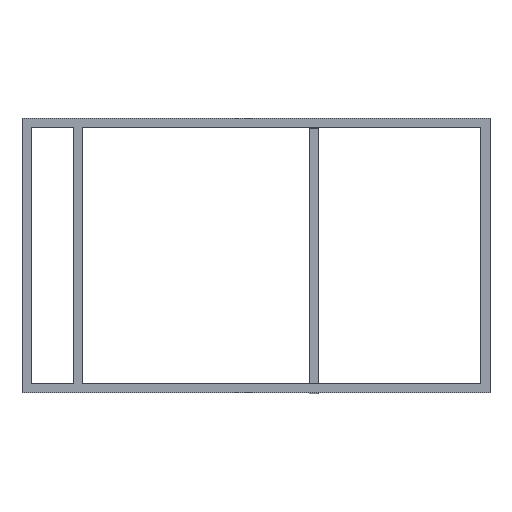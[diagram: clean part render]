
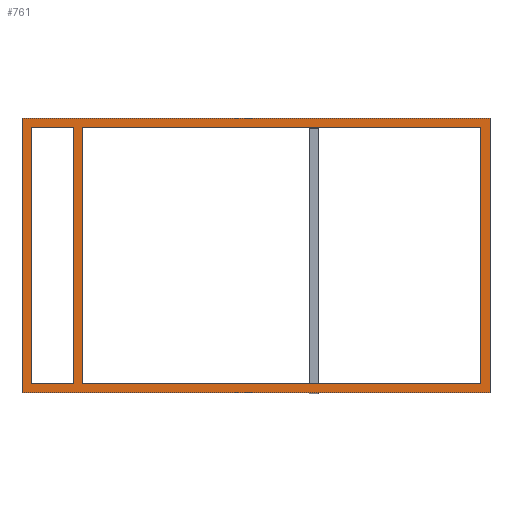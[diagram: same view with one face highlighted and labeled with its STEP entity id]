
A CAD part, top view. The second image highlights one B-rep face of the part: STEP entity #761.
In plain terms, the highlighted planar face has unit normal (0, 0, 1).
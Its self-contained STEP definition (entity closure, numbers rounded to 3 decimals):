
#682=AXIS2_PLACEMENT_3D('Plane Axis2P3D',#679,#680,#681) ;
#342=CARTESIAN_POINT('Vertex',(-385.,226.,0.)) ;
#345=CARTESIAN_POINT('Line Origine',(0.,226.,0.)) ;
#349=CARTESIAN_POINT('Vertex',(385.,226.,0.)) ;
#444=CARTESIAN_POINT('Vertex',(370.,211.,0.)) ;
#447=CARTESIAN_POINT('Line Origine',(42.5,211.,0.)) ;
#451=CARTESIAN_POINT('Vertex',(-285.,211.,0.)) ;
#664=CARTESIAN_POINT('Vertex',(-385.,-226.,0.)) ;
#667=CARTESIAN_POINT('Line Origine',(-385.,0.,0.)) ;
#679=CARTESIAN_POINT('Axis2P3D Location',(0.,0.,0.)) ;
#684=CARTESIAN_POINT('Line Origine',(385.,0.,0.)) ;
#688=CARTESIAN_POINT('Vertex',(385.,-226.,0.)) ;
#691=CARTESIAN_POINT('Line Origine',(0.,-226.,0.)) ;
#702=CARTESIAN_POINT('Line Origine',(-335.,211.,0.)) ;
#706=CARTESIAN_POINT('Vertex',(-300.,211.,0.)) ;
#708=CARTESIAN_POINT('Vertex',(-370.,211.,0.)) ;
#711=CARTESIAN_POINT('Line Origine',(-300.,0.,0.)) ;
#715=CARTESIAN_POINT('Vertex',(-300.,-211.,0.)) ;
#718=CARTESIAN_POINT('Line Origine',(-335.,-211.,0.)) ;
#722=CARTESIAN_POINT('Vertex',(-370.,-211.,0.)) ;
#725=CARTESIAN_POINT('Line Origine',(-370.,0.,0.)) ;
#736=CARTESIAN_POINT('Line Origine',(-285.,0.,0.)) ;
#740=CARTESIAN_POINT('Vertex',(-285.,-211.,0.)) ;
#743=CARTESIAN_POINT('Line Origine',(370.,0.,0.)) ;
#747=CARTESIAN_POINT('Vertex',(370.,-211.,0.)) ;
#750=CARTESIAN_POINT('Line Origine',(42.5,-211.,0.)) ;
#346=DIRECTION('Vector Direction',(1.,0.,0.)) ;
#448=DIRECTION('Vector Direction',(1.,0.,0.)) ;
#668=DIRECTION('Vector Direction',(0.,-1.,0.)) ;
#680=DIRECTION('Axis2P3D Direction',(0.,0.,1.)) ;
#681=DIRECTION('Axis2P3D XDirection',(1.,0.,0.)) ;
#685=DIRECTION('Vector Direction',(0.,1.,0.)) ;
#692=DIRECTION('Vector Direction',(-1.,0.,0.)) ;
#703=DIRECTION('Vector Direction',(1.,0.,0.)) ;
#712=DIRECTION('Vector Direction',(0.,-1.,0.)) ;
#719=DIRECTION('Vector Direction',(-1.,0.,0.)) ;
#726=DIRECTION('Vector Direction',(0.,-1.,0.)) ;
#737=DIRECTION('Vector Direction',(0.,1.,0.)) ;
#744=DIRECTION('Vector Direction',(0.,1.,0.)) ;
#751=DIRECTION('Vector Direction',(-1.,0.,0.)) ;
#347=VECTOR('Line Direction',#346,1.) ;
#449=VECTOR('Line Direction',#448,1.) ;
#669=VECTOR('Line Direction',#668,1.) ;
#686=VECTOR('Line Direction',#685,1.) ;
#693=VECTOR('Line Direction',#692,1.) ;
#704=VECTOR('Line Direction',#703,1.) ;
#713=VECTOR('Line Direction',#712,1.) ;
#720=VECTOR('Line Direction',#719,1.) ;
#727=VECTOR('Line Direction',#726,1.) ;
#738=VECTOR('Line Direction',#737,1.) ;
#745=VECTOR('Line Direction',#744,1.) ;
#752=VECTOR('Line Direction',#751,1.) ;
#697=ORIENTED_EDGE('',*,*,#690,.T.) ;
#698=ORIENTED_EDGE('',*,*,#351,.T.) ;
#699=ORIENTED_EDGE('',*,*,#671,.T.) ;
#700=ORIENTED_EDGE('',*,*,#695,.T.) ;
#731=ORIENTED_EDGE('',*,*,#710,.F.) ;
#732=ORIENTED_EDGE('',*,*,#717,.T.) ;
#733=ORIENTED_EDGE('',*,*,#724,.F.) ;
#734=ORIENTED_EDGE('',*,*,#729,.F.) ;
#756=ORIENTED_EDGE('',*,*,#742,.T.) ;
#757=ORIENTED_EDGE('',*,*,#453,.F.) ;
#758=ORIENTED_EDGE('',*,*,#749,.F.) ;
#759=ORIENTED_EDGE('',*,*,#754,.F.) ;
#735=FACE_BOUND('',#730,.T.) ;
#760=FACE_BOUND('',#755,.T.) ;
#761=ADVANCED_FACE('PartBody',(#701,#735,#760),#683,.T.) ;
#351=EDGE_CURVE('',#350,#343,#348,.F.) ;
#453=EDGE_CURVE('',#445,#452,#450,.F.) ;
#671=EDGE_CURVE('',#343,#665,#670,.T.) ;
#690=EDGE_CURVE('',#689,#350,#687,.T.) ;
#695=EDGE_CURVE('',#665,#689,#694,.F.) ;
#710=EDGE_CURVE('',#707,#709,#705,.F.) ;
#717=EDGE_CURVE('',#707,#716,#714,.T.) ;
#724=EDGE_CURVE('',#723,#716,#721,.F.) ;
#729=EDGE_CURVE('',#709,#723,#728,.T.) ;
#742=EDGE_CURVE('',#741,#452,#739,.T.) ;
#749=EDGE_CURVE('',#748,#445,#746,.T.) ;
#754=EDGE_CURVE('',#741,#748,#753,.F.) ;
#696=EDGE_LOOP('',(#697,#698,#699,#700)) ;
#730=EDGE_LOOP('',(#731,#732,#733,#734)) ;
#755=EDGE_LOOP('',(#756,#757,#758,#759)) ;
#701=FACE_OUTER_BOUND('',#696,.T.) ;
#348=LINE('Line',#345,#347) ;
#450=LINE('Line',#447,#449) ;
#670=LINE('Line',#667,#669) ;
#687=LINE('Line',#684,#686) ;
#694=LINE('Line',#691,#693) ;
#705=LINE('Line',#702,#704) ;
#714=LINE('Line',#711,#713) ;
#721=LINE('Line',#718,#720) ;
#728=LINE('Line',#725,#727) ;
#739=LINE('Line',#736,#738) ;
#746=LINE('Line',#743,#745) ;
#753=LINE('Line',#750,#752) ;
#683=PLANE('Plane',#682) ;
#343=VERTEX_POINT('',#342) ;
#350=VERTEX_POINT('',#349) ;
#445=VERTEX_POINT('',#444) ;
#452=VERTEX_POINT('',#451) ;
#665=VERTEX_POINT('',#664) ;
#689=VERTEX_POINT('',#688) ;
#707=VERTEX_POINT('',#706) ;
#709=VERTEX_POINT('',#708) ;
#716=VERTEX_POINT('',#715) ;
#723=VERTEX_POINT('',#722) ;
#741=VERTEX_POINT('',#740) ;
#748=VERTEX_POINT('',#747) ;
